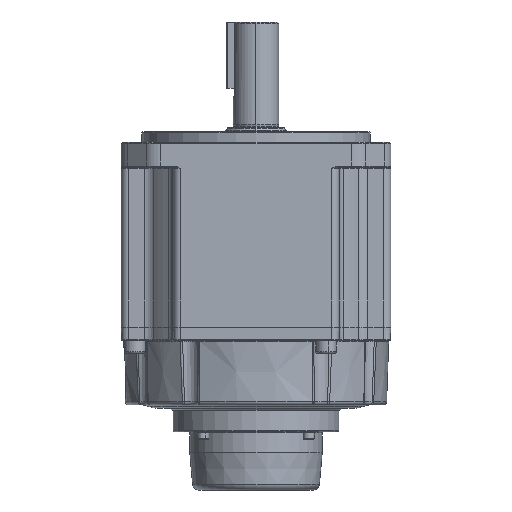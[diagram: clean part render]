
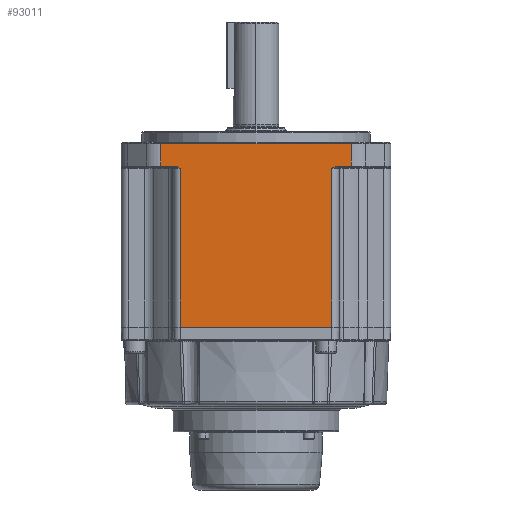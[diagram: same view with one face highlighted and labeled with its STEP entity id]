
A CAD part, front view. The second image highlights one B-rep face of the part: STEP entity #93011.
In plain terms, the highlighted planar face has unit normal (0, -1, 0).
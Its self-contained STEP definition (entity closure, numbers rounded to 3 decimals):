
#91 = LINE ( 'NONE', #51955, #73931 ) ;
#734 = CARTESIAN_POINT ( 'NONE',  ( 37.239, -65., -17.023 ) ) ;
#1310 = CARTESIAN_POINT ( 'NONE',  ( 39.084, -65., -16.5 ) ) ;
#6249 = LINE ( 'NONE', #41787, #69624 ) ;
#7091 = DIRECTION ( 'NONE',  ( 0., 0., 1. ) ) ;
#7665 = FACE_OUTER_BOUND ( 'NONE', #44858, .T. ) ;
#9474 = CARTESIAN_POINT ( 'NONE',  ( 36.401, -65., -17.5 ) ) ;
#9676 = EDGE_CURVE ( 'NONE', #50597, #107258, #78645, .T. ) ;
#11193 = CARTESIAN_POINT ( 'NONE',  ( 38.133, -65., -16.656 ) ) ;
#11369 = CARTESIAN_POINT ( 'NONE',  ( 50., -65., -312.548 ) ) ;
#12340 = DIRECTION ( 'NONE',  ( 0., -1., 0. ) ) ;
#14907 = CARTESIAN_POINT ( 'NONE',  ( 36.401, -65., -94.1 ) ) ;
#17136 = CARTESIAN_POINT ( 'NONE',  ( 39.084, -65., -16.5 ) ) ;
#20573 = VECTOR ( 'NONE', #96315, 1000. ) ;
#22767 = CARTESIAN_POINT ( 'NONE',  ( 45.858, -65., -5.5 ) ) ;
#23447 = B_SPLINE_CURVE_WITH_KNOTS ( 'NONE', 3,
 ( #9474, #45047, #734, #91477, #11193, #82187, #80460, #1310 ),
 .UNSPECIFIED., .F., .F.,
 ( 4, 2, 2, 4 ),
 ( 0., 0.001, 0.002, 0.003 ),
 .UNSPECIFIED. ) ;
#24012 = VERTEX_POINT ( 'NONE', #85335 ) ;
#24598 = EDGE_CURVE ( 'NONE', #70558, #40172, #33920, .T. ) ;
#24842 = ORIENTED_EDGE ( 'NONE', *, *, #48128, .T. ) ;
#25034 = LINE ( 'NONE', #43569, #62425 ) ;
#25619 = AXIS2_PLACEMENT_3D ( 'NONE', #11369, #12340, #64205 ) ;
#26309 = EDGE_CURVE ( 'NONE', #35014, #107258, #114958, .T. ) ;
#26997 = DIRECTION ( 'NONE',  ( 1., 0., 0. ) ) ;
#27258 = ORIENTED_EDGE ( 'NONE', *, *, #73816, .T. ) ;
#29169 = ORIENTED_EDGE ( 'NONE', *, *, #95680, .T. ) ;
#33920 = LINE ( 'NONE', #42656, #97120 ) ;
#34545 = LINE ( 'NONE', #97907, #100104 ) ;
#34794 = CARTESIAN_POINT ( 'NONE',  ( -37.903, -65., -16.739 ) ) ;
#35014 = VERTEX_POINT ( 'NONE', #58166 ) ;
#35754 = CARTESIAN_POINT ( 'NONE',  ( 36.401, -65., -17.5 ) ) ;
#36386 = CARTESIAN_POINT ( 'NONE',  ( -45.858, -65., -312.548 ) ) ;
#37097 = CARTESIAN_POINT ( 'NONE',  ( 45.858, -65., -312.548 ) ) ;
#39486 = ORIENTED_EDGE ( 'NONE', *, *, #89559, .T. ) ;
#40172 = VERTEX_POINT ( 'NONE', #35754 ) ;
#41023 = CARTESIAN_POINT ( 'NONE',  ( 45.858, -65., -16.5 ) ) ;
#41242 = CARTESIAN_POINT ( 'NONE',  ( -36.401, -65., -17.5 ) ) ;
#41787 = CARTESIAN_POINT ( 'NONE',  ( 50., -65., -94.1 ) ) ;
#42656 = CARTESIAN_POINT ( 'NONE',  ( 36.401, -65., -128.7 ) ) ;
#43569 = CARTESIAN_POINT ( 'NONE',  ( -45.858, -65., -5.5 ) ) ;
#44470 = ORIENTED_EDGE ( 'NONE', *, *, #26309, .F. ) ;
#44858 = EDGE_LOOP ( 'NONE', ( #44470, #77868, #83130, #89399, #70360, #29169, #24842, #39486, #27258, #92585 ) ) ;
#45047 = CARTESIAN_POINT ( 'NONE',  ( 36.819, -65., -17.262 ) ) ;
#45788 = VECTOR ( 'NONE', #65545, 1000. ) ;
#47491 = CARTESIAN_POINT ( 'NONE',  ( -45.858, -65., -5.5 ) ) ;
#48128 = EDGE_CURVE ( 'NONE', #76301, #89887, #25034, .T. ) ;
#49147 = VERTEX_POINT ( 'NONE', #41023 ) ;
#49415 = EDGE_CURVE ( 'NONE', #40172, #57553, #23447, .T. ) ;
#50597 = VERTEX_POINT ( 'NONE', #58487 ) ;
#51955 = CARTESIAN_POINT ( 'NONE',  ( 50., -65., -16.5 ) ) ;
#52686 = CARTESIAN_POINT ( 'NONE',  ( -36.401, -65., -17.5 ) ) ;
#56529 = VECTOR ( 'NONE', #71810, 1000. ) ;
#57553 = VERTEX_POINT ( 'NONE', #17136 ) ;
#58166 = CARTESIAN_POINT ( 'NONE',  ( -36.401, -65., -94.1 ) ) ;
#58487 = CARTESIAN_POINT ( 'NONE',  ( -39.084, -65., -16.5 ) ) ;
#58663 = DIRECTION ( 'NONE',  ( 1., 0., 0. ) ) ;
#62425 = VECTOR ( 'NONE', #113430, 1000. ) ;
#64205 = DIRECTION ( 'NONE',  ( 1., 0., 0. ) ) ;
#65545 = DIRECTION ( 'NONE',  ( 0., 0., 1. ) ) ;
#69624 = VECTOR ( 'NONE', #58663, 1000. ) ;
#70290 = CARTESIAN_POINT ( 'NONE',  ( -37.239, -65., -17.023 ) ) ;
#70360 = ORIENTED_EDGE ( 'NONE', *, *, #74121, .T. ) ;
#70558 = VERTEX_POINT ( 'NONE', #14907 ) ;
#71810 = DIRECTION ( 'NONE',  ( 0., 0., -1. ) ) ;
#73816 = EDGE_CURVE ( 'NONE', #24012, #50597, #91, .T. ) ;
#73931 = VECTOR ( 'NONE', #26997, 1000. ) ;
#74121 = EDGE_CURVE ( 'NONE', #57553, #49147, #34545, .T. ) ;
#76301 = VERTEX_POINT ( 'NONE', #22767 ) ;
#77868 = ORIENTED_EDGE ( 'NONE', *, *, #88118, .T. ) ;
#78645 = B_SPLINE_CURVE_WITH_KNOTS ( 'NONE', 3,
 ( #105229, #96451, #87672, #78966, #34794, #70290, #105794, #41242 ),
 .UNSPECIFIED., .F., .F.,
 ( 4, 2, 2, 4 ),
 ( 0., 0.001, 0.001, 0.003 ),
 .UNSPECIFIED. ) ;
#78966 = CARTESIAN_POINT ( 'NONE',  ( -38.133, -65., -16.656 ) ) ;
#80460 = CARTESIAN_POINT ( 'NONE',  ( 38.84, -65., -16.5 ) ) ;
#81104 = LINE ( 'NONE', #36386, #56529 ) ;
#82187 = CARTESIAN_POINT ( 'NONE',  ( 38.601, -65., -16.537 ) ) ;
#83130 = ORIENTED_EDGE ( 'NONE', *, *, #24598, .T. ) ;
#85335 = CARTESIAN_POINT ( 'NONE',  ( -45.858, -65., -16.5 ) ) ;
#85819 = CARTESIAN_POINT ( 'NONE',  ( -36.401, -65., -128.7 ) ) ;
#87672 = CARTESIAN_POINT ( 'NONE',  ( -38.601, -65., -16.537 ) ) ;
#88118 = EDGE_CURVE ( 'NONE', #35014, #70558, #6249, .T. ) ;
#89399 = ORIENTED_EDGE ( 'NONE', *, *, #49415, .T. ) ;
#89559 = EDGE_CURVE ( 'NONE', #89887, #24012, #81104, .T. ) ;
#89887 = VERTEX_POINT ( 'NONE', #47491 ) ;
#91477 = CARTESIAN_POINT ( 'NONE',  ( 37.903, -65., -16.739 ) ) ;
#92585 = ORIENTED_EDGE ( 'NONE', *, *, #9676, .T. ) ;
#93011 = ADVANCED_FACE ( 'NONE', ( #7665 ), #105476, .T. ) ;
#95680 = EDGE_CURVE ( 'NONE', #49147, #76301, #101030, .T. ) ;
#96315 = DIRECTION ( 'NONE',  ( 0., 0., 1. ) ) ;
#96451 = CARTESIAN_POINT ( 'NONE',  ( -38.84, -65., -16.5 ) ) ;
#97120 = VECTOR ( 'NONE', #7091, 1000. ) ;
#97907 = CARTESIAN_POINT ( 'NONE',  ( 50., -65., -16.5 ) ) ;
#100104 = VECTOR ( 'NONE', #114297, 1000. ) ;
#101030 = LINE ( 'NONE', #37097, #45788 ) ;
#105229 = CARTESIAN_POINT ( 'NONE',  ( -39.084, -65., -16.5 ) ) ;
#105476 = PLANE ( 'NONE',  #25619 ) ;
#105794 = CARTESIAN_POINT ( 'NONE',  ( -36.82, -65., -17.262 ) ) ;
#107258 = VERTEX_POINT ( 'NONE', #52686 ) ;
#113430 = DIRECTION ( 'NONE',  ( -1., 0., 0. ) ) ;
#114297 = DIRECTION ( 'NONE',  ( 1., 0., 0. ) ) ;
#114958 = LINE ( 'NONE', #85819, #20573 ) ;
